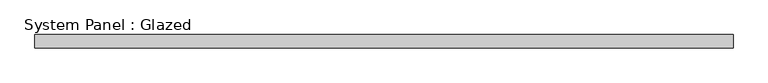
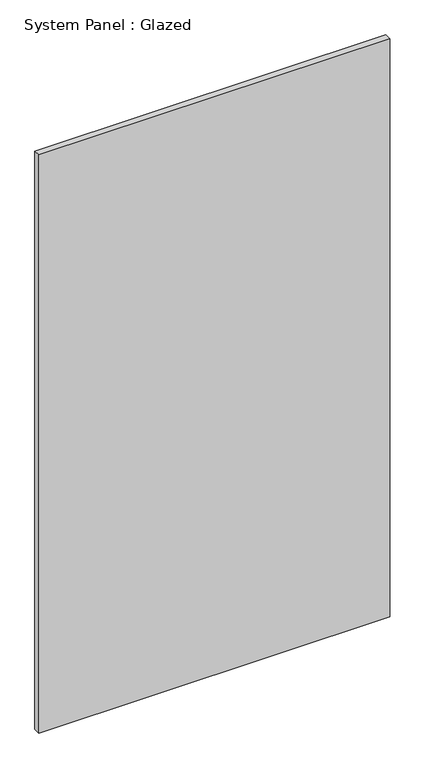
"""IFC4 building model written with IfcOpenShell, lengths in millimetres: plate geometry, System Panel : Glazed."""

from ifc_helpers import new_model, si_unit, origin, origin_with_axes, place, context, project, spatial, polyline, outline, extrude, source, transform, mapped, element, save


def system_panel_glazed_aacaee84(model_context):
    return source(origin(), model_context, "Body", "SweptSolid", [
        extrude(outline(polyline([(663.575, 19.05), (-663.575, 19.05), (-663.575, 44.45), (663.575, 44.45), (663.575, 19.05)])), origin_with_axes(), (0.0, 0.0, 1.0), 2311.4),
    ])


if __name__ == "__main__":
    model = new_model("IFC4")
    model_context = context("Model", 3, world=origin())
    ifc_project = project(units=[si_unit("LENGTHUNIT", "METRE", prefix="MILLI")], contexts=[model_context])
    site = spatial("IfcSite", under=ifc_project)
    building = spatial("IfcBuilding", under=site)
    placement = place(None, origin())
    system_panel_glazed_shape = system_panel_glazed_aacaee84(model_context)
    element("IfcPlate", 1, ObjectType="System Panel : Glazed", at=placement, inside=building, context=model_context, shape_type="MappedRepresentation", body=[
        mapped(system_panel_glazed_shape, transform((0.0, 0.0, 0.0), x_axis=(1.0, 0.0, 0.0), y_axis=(0.0, 1.0, 0.0), z_axis=(0.0, 0.0, 1.0))),
    ])
    save(model, "model.ifc")
